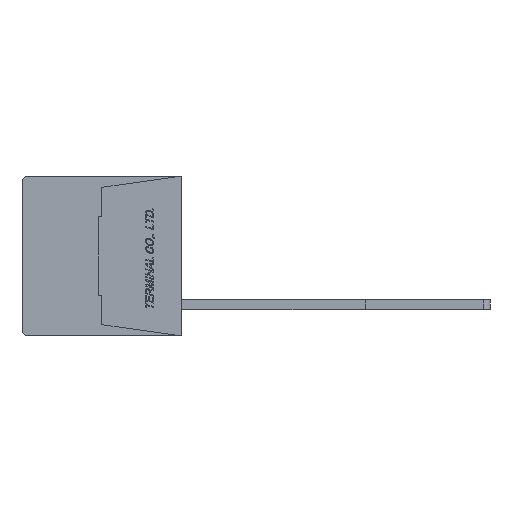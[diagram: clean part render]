
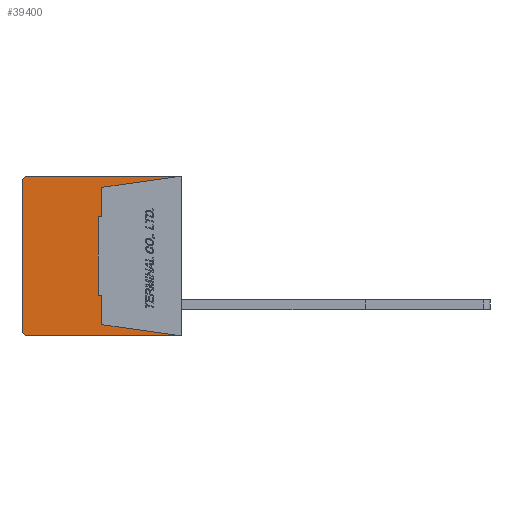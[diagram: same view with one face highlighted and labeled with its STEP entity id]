
A CAD part, left-side view. The second image highlights one B-rep face of the part: STEP entity #39400.
In plain terms, the highlighted planar face has unit normal (-1, 0, 0).
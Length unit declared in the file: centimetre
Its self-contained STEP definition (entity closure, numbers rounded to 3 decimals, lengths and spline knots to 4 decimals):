
#407=CIRCLE('',#67731,0.05);
#408=CIRCLE('',#67732,0.05);
#2430=VERTEX_POINT('',#51771);
#2431=VERTEX_POINT('',#51773);
#2432=VERTEX_POINT('',#51777);
#2433=VERTEX_POINT('',#51781);
#2434=VERTEX_POINT('',#51785);
#2435=VERTEX_POINT('',#51789);
#2436=VERTEX_POINT('',#51793);
#2437=VERTEX_POINT('',#51797);
#2486=VERTEX_POINT('',#52080);
#2487=VERTEX_POINT('',#52082);
#2488=VERTEX_POINT('',#52084);
#2489=VERTEX_POINT('',#52086);
#6569=VECTOR('',#43775,1.);
#6572=VECTOR('',#43779,1.);
#6574=VECTOR('',#43782,1.);
#6576=VECTOR('',#43785,1.);
#6578=VECTOR('',#43788,1.);
#6580=VECTOR('',#43791,1.);
#6582=VECTOR('',#43794,1.);
#6625=VECTOR('',#43847,1.);
#6626=VECTOR('',#43850,1.);
#6627=VECTOR('',#43853,1.);
#11268=LINE('',#51772,#6569);
#11271=LINE('',#51778,#6572);
#11273=LINE('',#51782,#6574);
#11275=LINE('',#51786,#6576);
#11277=LINE('',#51790,#6578);
#11279=LINE('',#51794,#6580);
#11281=LINE('',#51798,#6582);
#11324=LINE('',#52079,#6625);
#11325=LINE('',#52083,#6626);
#11326=LINE('',#52087,#6627);
#16041=EDGE_CURVE('',#2431,#2430,#11268,.T.);
#16044=EDGE_CURVE('',#2430,#2432,#11271,.T.);
#16046=EDGE_CURVE('',#2432,#2433,#11273,.T.);
#16048=EDGE_CURVE('',#2433,#2434,#11275,.T.);
#16050=EDGE_CURVE('',#2434,#2435,#11277,.T.);
#16052=EDGE_CURVE('',#2435,#2436,#11279,.T.);
#16054=EDGE_CURVE('',#2436,#2437,#11281,.T.);
#16127=EDGE_CURVE('',#2437,#2486,#11324,.T.);
#16128=EDGE_CURVE('',#2487,#2486,#407,.T.);
#16129=EDGE_CURVE('',#2487,#2488,#11325,.T.);
#16130=EDGE_CURVE('',#2489,#2488,#408,.T.);
#16131=EDGE_CURVE('',#2489,#2431,#11326,.T.);
#22737=ORIENTED_EDGE('',*,*,#16041,.T.);
#22738=ORIENTED_EDGE('',*,*,#16044,.T.);
#22739=ORIENTED_EDGE('',*,*,#16046,.T.);
#22740=ORIENTED_EDGE('',*,*,#16048,.T.);
#22741=ORIENTED_EDGE('',*,*,#16050,.T.);
#22742=ORIENTED_EDGE('',*,*,#16052,.T.);
#22743=ORIENTED_EDGE('',*,*,#16054,.T.);
#22744=ORIENTED_EDGE('',*,*,#16127,.T.);
#22745=ORIENTED_EDGE('',*,*,#16128,.F.);
#22746=ORIENTED_EDGE('',*,*,#16129,.T.);
#22747=ORIENTED_EDGE('',*,*,#16130,.F.);
#22748=ORIENTED_EDGE('',*,*,#16131,.T.);
#34150=EDGE_LOOP('',(#22737,#22738,#22739,#22740,#22741,#22742,#22743,#22744,
#22745,#22746,#22747,#22748));
#36785=FACE_BOUND('',#34150,.T.);
#39400=ADVANCED_FACE('',(#36785),#41720,.F.);
#41720=PLANE('',#67730);
#43775=DIRECTION('',(0.,0.99,0.139));
#43779=DIRECTION('',(0.,0.,1.));
#43782=DIRECTION('',(0.,1.,0.));
#43785=DIRECTION('',(0.,0.,1.));
#43788=DIRECTION('',(0.,-1.,0.));
#43791=DIRECTION('',(0.,0.,1.));
#43794=DIRECTION('',(0.,-0.99,0.139));
#43846=DIRECTION('',(1.,0.,0.));
#43847=DIRECTION('',(0.,1.,0.));
#43848=DIRECTION('',(1.,0.,0.));
#43849=DIRECTION('',(0.,0.,-0.05));
#43850=DIRECTION('',(0.,0.,-1.));
#43851=DIRECTION('',(1.,0.,0.));
#43852=DIRECTION('',(0.,0.,-0.05));
#43853=DIRECTION('',(0.,-1.,0.));
#51771=CARTESIAN_POINT('',(-0.889,0.64,-0.55));
#51772=CARTESIAN_POINT('',(-0.889,0.5152,-0.5675));
#51773=CARTESIAN_POINT('',(-0.889,0.,-0.64));
#51777=CARTESIAN_POINT('',(-0.889,0.64,-0.315));
#51778=CARTESIAN_POINT('',(-0.889,0.64,-0.2163));
#51781=CARTESIAN_POINT('',(-0.889,0.67,-0.315));
#51782=CARTESIAN_POINT('',(-0.889,0.6447,-0.315));
#51785=CARTESIAN_POINT('',(-0.889,0.67,0.315));
#51786=CARTESIAN_POINT('',(-0.889,0.67,0.));
#51789=CARTESIAN_POINT('',(-0.889,0.64,0.315));
#51790=CARTESIAN_POINT('',(-0.889,0.6447,0.315));
#51793=CARTESIAN_POINT('',(-0.889,0.64,0.55));
#51794=CARTESIAN_POINT('',(-0.889,0.64,0.2162));
#51797=CARTESIAN_POINT('',(-0.889,0.,0.64));
#51798=CARTESIAN_POINT('',(-0.889,0.5152,0.5675));
#52078=CARTESIAN_POINT('',(-0.889,0.6345,0.));
#52079=CARTESIAN_POINT('',(-0.889,0.,0.64));
#52080=CARTESIAN_POINT('',(-0.889,1.23,0.64));
#52081=CARTESIAN_POINT('',(-0.889,1.23,0.59));
#52082=CARTESIAN_POINT('',(-0.889,1.28,0.59));
#52083=CARTESIAN_POINT('',(-0.889,1.28,0.59));
#52084=CARTESIAN_POINT('',(-0.889,1.28,-0.59));
#52085=CARTESIAN_POINT('',(-0.889,1.23,-0.59));
#52086=CARTESIAN_POINT('',(-0.889,1.23,-0.64));
#52087=CARTESIAN_POINT('',(-0.889,1.23,-0.64));
#67730=AXIS2_PLACEMENT_3D('',#52078,#43846,$);
#67731=AXIS2_PLACEMENT_3D('',#52081,#43848,#43849);
#67732=AXIS2_PLACEMENT_3D('',#52085,#43851,#43852);
